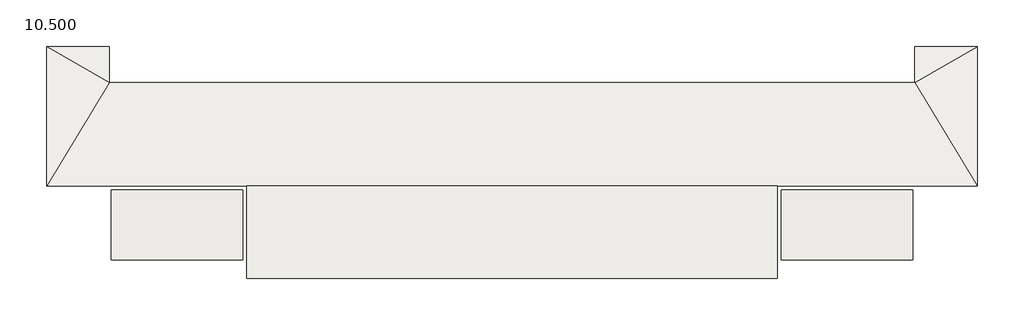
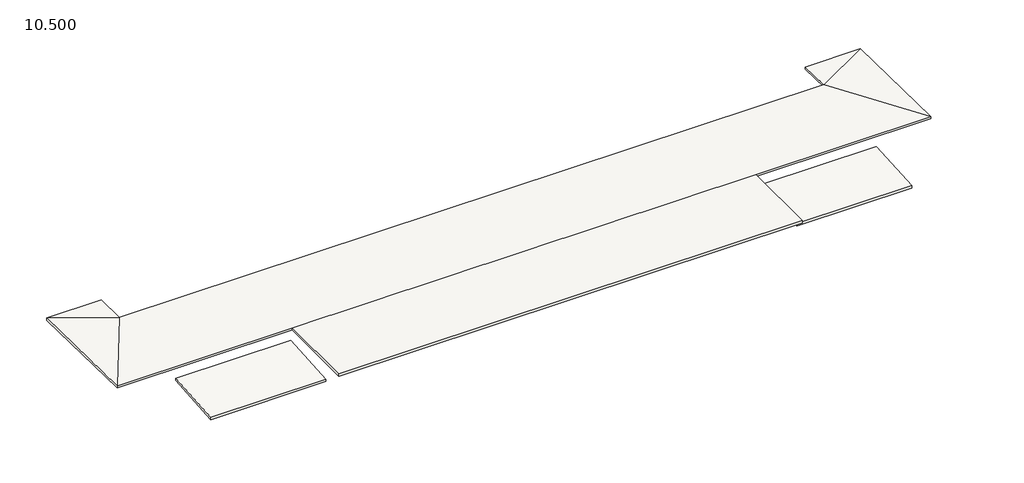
# One storey: 2 slabs, 1 roof.
"""IFC4 building model written with IfcOpenShell, lengths in millimetres."""

from ifc_helpers import new_model, si_unit, frame, origin, place, context, project, spatial, polyline, outline, extrude, faceted_brep, element, save

model = new_model("IFC4")

# Units and contexts
model_context = context("Model", 3, world=origin())
ifc_project = project(units=[si_unit("LENGTHUNIT", "METRE", prefix="MILLI")], contexts=[model_context])

# Site, building, storey
site = spatial("IfcSite", under=ifc_project)
building = spatial("IfcBuilding", under=site)
storey = spatial("IfcBuildingStorey", under=building, Name="10.500", Elevation=10500.0)

# Roof
placement = place(None, origin())
element("IfcRoof", 1, ObjectType="150mm厚钢筋混凝土", at=placement, inside=storey, context=model_context, shape_type="Brep", body=[
    faceted_brep([(-3787.0109656, 7496.6095817, 10482.0), (-3787.0109656, 7496.6095817, 10332.0), (-7447.0109656, 7496.6095817, 10332.0), (-7447.0109656, 7496.6095817, 10482.0), (-7447.0109656, -663.3904183, 10500.0), (-7447.0109656, -663.3904183, 10650.0), (4252.9890344, -663.3904183, 10500.0), (4252.9890344, -663.3904183, 10650.0), (-3787.0109656, 5396.6095817, 10524.0), (-3787.0109656, 5396.6095817, 10374.0), (43252.9890344, 5396.6095817, 10524.0), (43252.9890344, 5396.6095817, 10374.0), (4252.9890344, -6063.3904183, 10500.0), (4252.9890344, -6063.3904183, 10650.0), (35212.9890344, -6063.3904183, 10500.0), (35212.9890344, -6063.3904183, 10650.0), (35212.9890344, -663.3904183, 10500.0), (35212.9890344, -663.3904183, 10650.0), (46912.9890344, -663.3904183, 10500.0), (46912.9890344, -663.3904183, 10650.0), (46912.9890344, 7496.6095817, 10332.0), (46912.9890344, 7496.6095817, 10482.0), (43252.9890344, 7496.6095817, 10332.0), (43252.9890344, 7496.6095817, 10482.0)], [[[0, 1, 2, 3]], [[3, 2, 4, 5]], [[5, 4, 6, 7]], [[8, 9, 1, 0]], [[10, 11, 9, 8]], [[7, 6, 12, 13]], [[13, 12, 14, 15]], [[15, 14, 16, 17]], [[17, 16, 18, 19]], [[19, 18, 20, 21]], [[21, 20, 22, 23]], [[23, 22, 11, 10]], [[3, 5, 8]], [[2, 9, 4]], [[7, 13, 15, 17]], [[3, 8, 0]], [[5, 7, 17, 19, 10, 8]], [[21, 23, 10]], [[19, 21, 10]], [[6, 16, 14, 12]], [[2, 1, 9]], [[4, 9, 11, 18, 16, 6]], [[20, 11, 22]], [[18, 11, 20]]]),
])

# Slabs
element("IfcSlab", 2, ObjectType="150mm厚钢筋混凝土", at=placement, inside=storey, context=model_context, shape_type="SweptSolid", body=[
    extrude(outline(polyline([(-4983.3904183, 9550.0), (-4983.3904183, 9700.0), (-903.3904183, 10000.0), (-903.3904183, 9850.0), (-4983.3904183, 9550.0)])), frame((-3667.0109656, 0.0, 0.0), z_axis=(1.0, 0.0, 0.0), x_axis=(0.0, 1.0, 0.0)), (0.0, 0.0, 1.0), 7680.0),
])
element("IfcSlab", 3, ObjectType="150mm厚钢筋混凝土", at=placement, inside=storey, context=model_context, shape_type="SweptSolid", body=[
    extrude(outline(polyline([(-4983.3904183, 9550.0), (-4983.3904183, 9700.0), (-903.3904183, 10000.0), (-903.3904183, 9850.0), (-4983.3904183, 9550.0)])), frame((35452.9890344, 0.0, 0.0), z_axis=(1.0, 0.0, 0.0), x_axis=(0.0, 1.0, 0.0)), (0.0, 0.0, 1.0), 7680.0),
])

save(model, "model.ifc")
